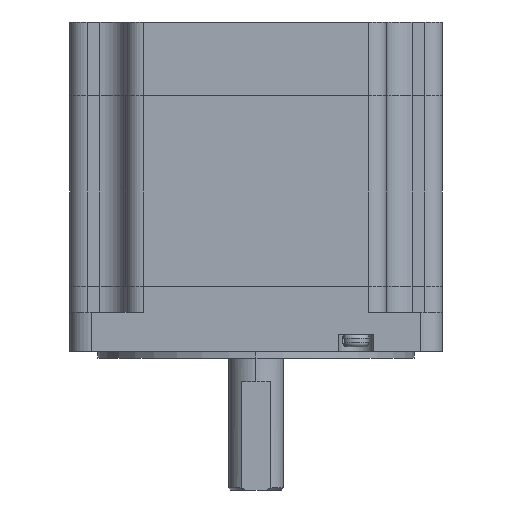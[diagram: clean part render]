
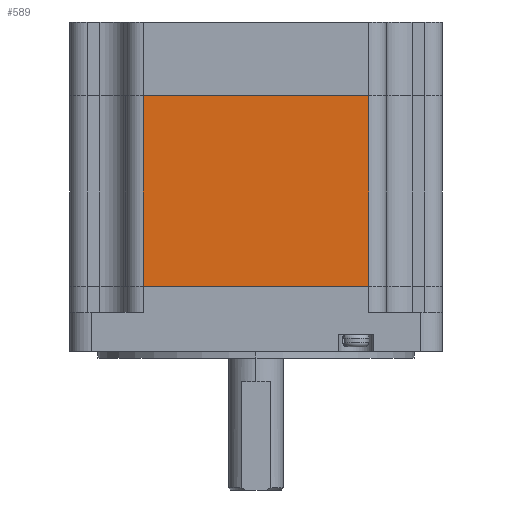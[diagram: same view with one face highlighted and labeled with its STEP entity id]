
A CAD part, left-side view. The second image highlights one B-rep face of the part: STEP entity #589.
In plain terms, the highlighted planar face has unit normal (-1, 0, 0).
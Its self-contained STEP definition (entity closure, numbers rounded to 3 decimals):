
#535 = VERTEX_POINT ( 'NONE', #1691 ) ;
#550 = EDGE_CURVE ( 'NONE', #535, #605, #1708, .T. ) ;
#587 = EDGE_CURVE ( 'NONE', #588, #590, #1820, .T. ) ;
#588 = VERTEX_POINT ( 'NONE', #1813 ) ;
#589 = ADVANCED_FACE ( 'NONE', ( #1809 ), #1777, .F. ) ;
#590 = VERTEX_POINT ( 'NONE', #1768 ) ;
#591 = ORIENTED_EDGE ( 'NONE', *, *, #587, .F. ) ;
#592 = ORIENTED_EDGE ( 'NONE', *, *, #593, .F. ) ;
#593 = EDGE_CURVE ( 'NONE', #535, #588, #1810, .T. ) ;
#597 = ORIENTED_EDGE ( 'NONE', *, *, #550, .T. ) ;
#598 = ORIENTED_EDGE ( 'NONE', *, *, #604, .T. ) ;
#599 = EDGE_LOOP ( 'NONE', ( #598, #591, #592, #597 ) ) ;
#604 = EDGE_CURVE ( 'NONE', #605, #590, #1846, .T. ) ;
#605 = VERTEX_POINT ( 'NONE', #1854 ) ;
#1691 = CARTESIAN_POINT ( 'NONE',  ( -43., 26., 44. ) ) ;
#1705 = DIRECTION ( 'NONE',  ( 0., 0., -1. ) ) ;
#1706 = VECTOR ( 'NONE', #1705, 1000. ) ;
#1707 = CARTESIAN_POINT ( 'NONE',  ( -43., 26., 44. ) ) ;
#1708 = LINE ( 'NONE', #1707, #1706 ) ;
#1768 = CARTESIAN_POINT ( 'NONE',  ( -43., -26., 0. ) ) ;
#1777 = PLANE ( 'NONE',  #1807 ) ;
#1801 = DIRECTION ( 'NONE',  ( 0., -1., 0. ) ) ;
#1802 = VECTOR ( 'NONE', #1801, 1000. ) ;
#1803 = CARTESIAN_POINT ( 'NONE',  ( -43., 26., 44. ) ) ;
#1805 = DIRECTION ( 'NONE',  ( 0., 0., -1. ) ) ;
#1806 = DIRECTION ( 'NONE',  ( 1., 0., 0. ) ) ;
#1807 = AXIS2_PLACEMENT_3D ( 'NONE', #1822, #1806, #1805 ) ;
#1809 = FACE_OUTER_BOUND ( 'NONE', #599, .T. ) ;
#1810 = LINE ( 'NONE', #1803, #1802 ) ;
#1811 = DIRECTION ( 'NONE',  ( 0., 0., -1. ) ) ;
#1812 = VECTOR ( 'NONE', #1811, 1000. ) ;
#1813 = CARTESIAN_POINT ( 'NONE',  ( -43., -26., 44. ) ) ;
#1819 = CARTESIAN_POINT ( 'NONE',  ( -43., -26., 44. ) ) ;
#1820 = LINE ( 'NONE', #1819, #1812 ) ;
#1822 = CARTESIAN_POINT ( 'NONE',  ( -43., 26., 44. ) ) ;
#1840 = DIRECTION ( 'NONE',  ( 0., -1., 0. ) ) ;
#1841 = VECTOR ( 'NONE', #1840, 1000. ) ;
#1842 = CARTESIAN_POINT ( 'NONE',  ( -43., 26., 0. ) ) ;
#1846 = LINE ( 'NONE', #1842, #1841 ) ;
#1854 = CARTESIAN_POINT ( 'NONE',  ( -43., 26., 0. ) ) ;
